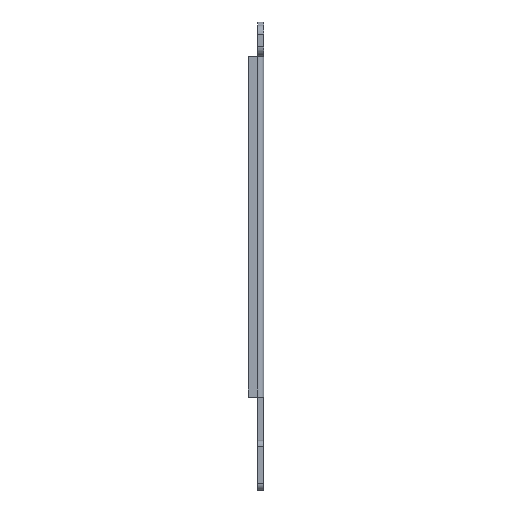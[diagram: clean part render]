
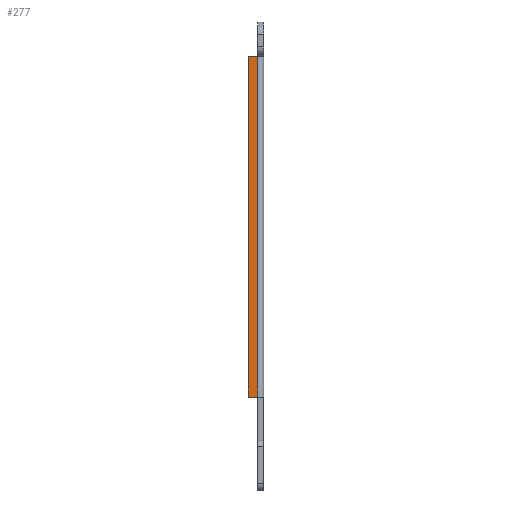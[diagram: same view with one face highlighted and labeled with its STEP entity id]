
A CAD part, left-side view. The second image highlights one B-rep face of the part: STEP entity #277.
In plain terms, the highlighted planar face has unit normal (-1, 0, 0).
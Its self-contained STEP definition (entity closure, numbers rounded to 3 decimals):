
#84 = VERTEX_POINT ( 'NONE', #1986 ) ;
#104 = CARTESIAN_POINT ( 'NONE',  ( -6., 0., 140. ) ) ;
#181 = CARTESIAN_POINT ( 'NONE',  ( -6., 0., 140. ) ) ;
#277 = ADVANCED_FACE ( 'NONE', ( #1138 ), #1775, .T. ) ;
#296 = DIRECTION ( 'NONE',  ( 0., 1., 0. ) ) ;
#313 = DIRECTION ( 'NONE',  ( 0., 0., 1. ) ) ;
#321 = LINE ( 'NONE', #181, #1643 ) ;
#550 = LINE ( 'NONE', #742, #687 ) ;
#578 = VECTOR ( 'NONE', #296, 1000. ) ;
#600 = VERTEX_POINT ( 'NONE', #1541 ) ;
#687 = VECTOR ( 'NONE', #1729, 1000. ) ;
#713 = VERTEX_POINT ( 'NONE', #1252 ) ;
#742 = CARTESIAN_POINT ( 'NONE',  ( -6., 5., 140. ) ) ;
#770 = CARTESIAN_POINT ( 'NONE',  ( -6., 5., 140. ) ) ;
#778 = EDGE_CURVE ( 'NONE', #713, #84, #1617, .T. ) ;
#818 = EDGE_CURVE ( 'NONE', #600, #1644, #321, .T. ) ;
#840 = LINE ( 'NONE', #1163, #1992 ) ;
#1138 = FACE_OUTER_BOUND ( 'NONE', #1853, .T. ) ;
#1146 = DIRECTION ( 'NONE',  ( 0., 1., 0. ) ) ;
#1163 = CARTESIAN_POINT ( 'NONE',  ( -6., 2., 140. ) ) ;
#1179 = ORIENTED_EDGE ( 'NONE', *, *, #1369, .F. ) ;
#1252 = CARTESIAN_POINT ( 'NONE',  ( -6., 2., 30. ) ) ;
#1261 = CARTESIAN_POINT ( 'NONE',  ( -6., 0., 30. ) ) ;
#1284 = EDGE_CURVE ( 'NONE', #713, #600, #840, .T. ) ;
#1336 = AXIS2_PLACEMENT_3D ( 'NONE', #104, #1787, #313 ) ;
#1347 = ORIENTED_EDGE ( 'NONE', *, *, #1284, .T. ) ;
#1369 = EDGE_CURVE ( 'NONE', #84, #1644, #550, .T. ) ;
#1488 = DIRECTION ( 'NONE',  ( 0., 0., 1. ) ) ;
#1541 = CARTESIAN_POINT ( 'NONE',  ( -6., 2., 140. ) ) ;
#1563 = ORIENTED_EDGE ( 'NONE', *, *, #818, .T. ) ;
#1617 = LINE ( 'NONE', #1261, #578 ) ;
#1643 = VECTOR ( 'NONE', #1146, 1000. ) ;
#1644 = VERTEX_POINT ( 'NONE', #770 ) ;
#1729 = DIRECTION ( 'NONE',  ( 0., 0., 1. ) ) ;
#1775 = PLANE ( 'NONE',  #1336 ) ;
#1787 = DIRECTION ( 'NONE',  ( -1., 0., 0. ) ) ;
#1828 = ORIENTED_EDGE ( 'NONE', *, *, #778, .F. ) ;
#1853 = EDGE_LOOP ( 'NONE', ( #1828, #1347, #1563, #1179 ) ) ;
#1986 = CARTESIAN_POINT ( 'NONE',  ( -6., 5., 30. ) ) ;
#1992 = VECTOR ( 'NONE', #1488, 1000. ) ;
